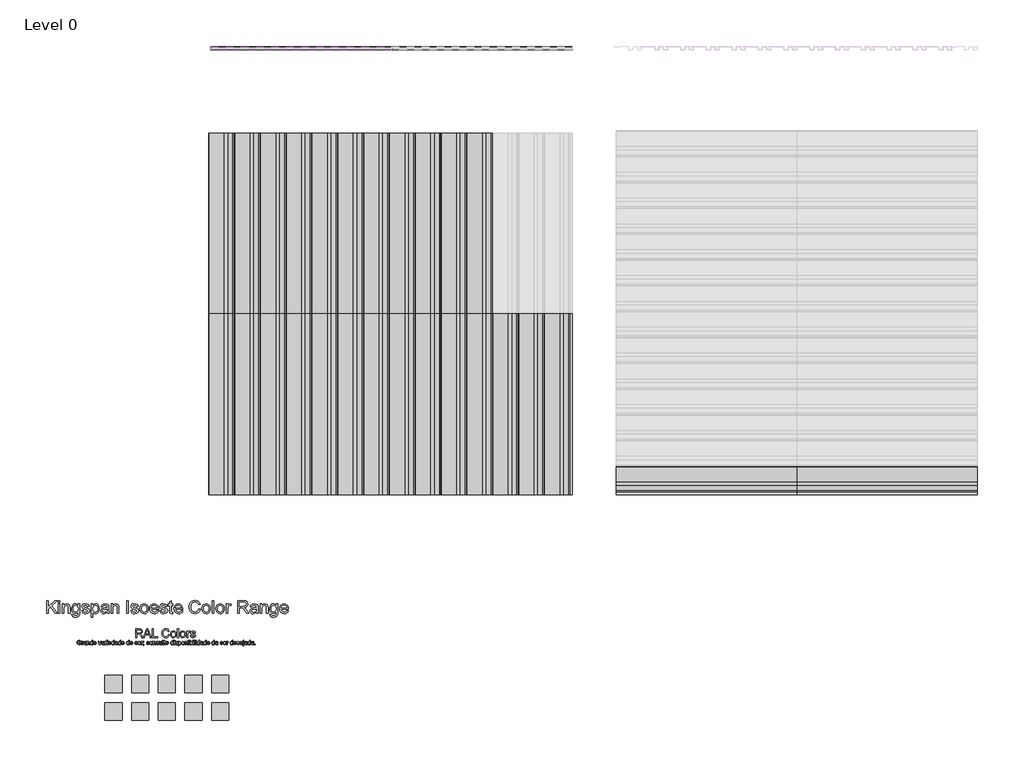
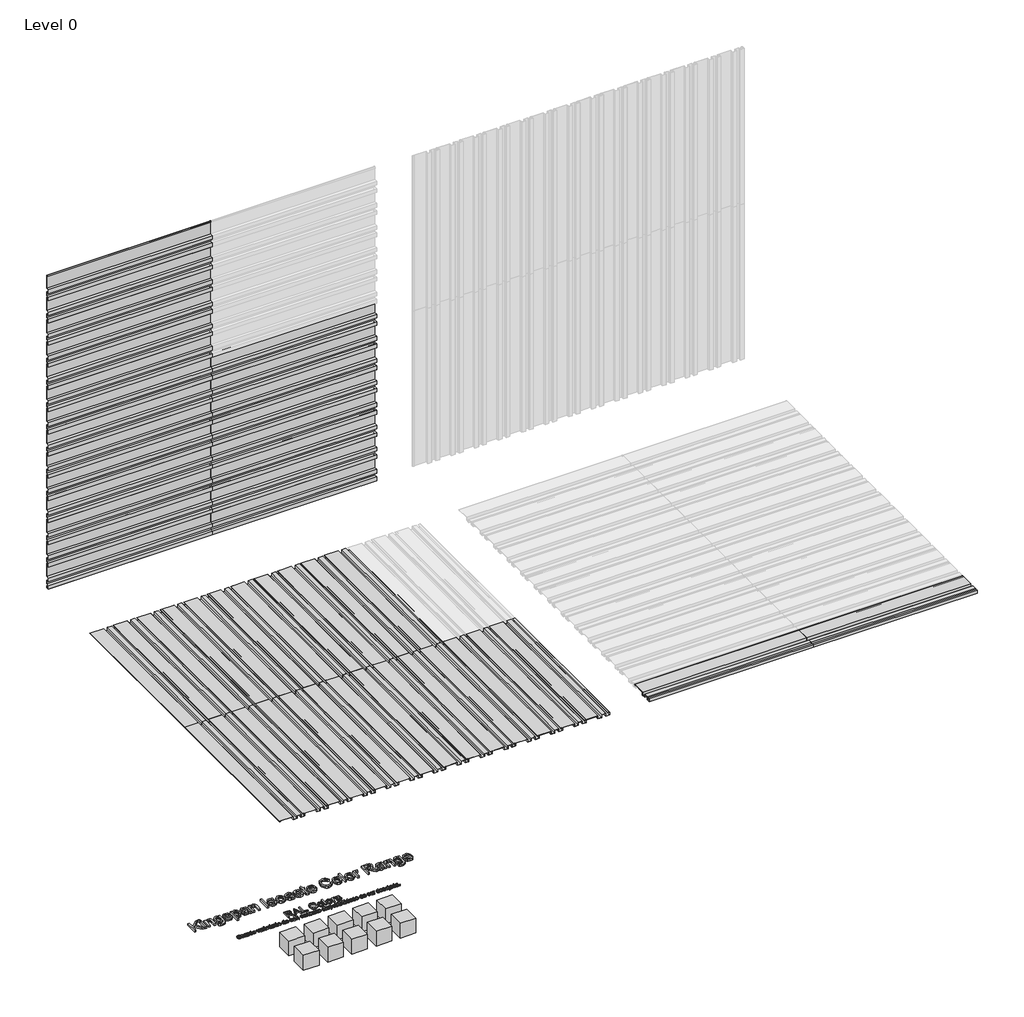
# One storey, part 1 of 2: 60 proxies.
"""IFC4 building model written with IfcOpenShell, lengths in millimetres."""

from ifc_helpers import new_model, si_unit, origin, place, context, project, spatial, transform, mapped, element, save
from components import proxy_32_ks_iso_colour_range_8220f766, proxy_32_ks_iso_colour_range_06d69407, ks_colour_sample_ks_colour_sample_0243efec, mx3_0_standard_panel_ns_184cfff8, mx3_0_standard_panel_ns_9c684af8

model = new_model("IFC4")

# Units and contexts
model_context = context("Model", 3, world=origin())
ifc_project = project(units=[si_unit("LENGTHUNIT", "METRE", prefix="MILLI")], contexts=[model_context])

# Site, building, storey
site = spatial("IfcSite", under=ifc_project)
building = spatial("IfcBuilding", under=site)
storey = spatial("IfcBuildingStorey", under=building, Name="Level 0", Elevation=0.0)

# Proxies
placement = place(None, origin())
proxy_32_ks_iso_colour_range_shape = proxy_32_ks_iso_colour_range_8220f766(model_context)
proxy_32_ks_iso_colour_range_2_shape = proxy_32_ks_iso_colour_range_06d69407(model_context)
element("IfcBuildingElementProxy", 1, Name="32-KS-ISO-Colour Range : Kingspan Isoeste Color Range", ObjectType="32-KS-ISO-Colour Range : Kingspan Isoeste Color Range", at=placement, inside=storey, context=model_context, shape_type="MappedRepresentation", body=[
    mapped(proxy_32_ks_iso_colour_range_shape, transform((-3929.8390717, -2223.0925896, 0.0), x_axis=(1.0, 0.0, 0.0), y_axis=(0.0, 1.0, 0.0), z_axis=(0.0, 0.0, 1.0))),
    mapped(proxy_32_ks_iso_colour_range_2_shape, transform((-3929.8390717, -2223.0925896, 0.0), x_axis=(1.0, 0.0, 0.0), y_axis=(0.0, 1.0, 0.0), z_axis=(0.0, 0.0, 1.0))),
])
ks_colour_sample_ks_colour_sample_shape = ks_colour_sample_ks_colour_sample_0243efec(model_context)
element("IfcBuildingElementProxy", 2, Name="KS_Colour Sample : KS_Colour Sample", ObjectType="KS_Colour Sample : KS_Colour Sample", at=placement, inside=storey, context=model_context, shape_type="MappedRepresentation", body=[
    mapped(ks_colour_sample_ks_colour_sample_shape, transform((-3309.8390717, -2663.0925896, 0.0), x_axis=(1.0, 0.0, 0.0), y_axis=(0.0, 1.0, 0.0), z_axis=(0.0, 0.0, 1.0))),
])
element("IfcBuildingElementProxy", 3, Name="KS_Colour Sample : KS_Colour Sample", ObjectType="KS_Colour Sample : KS_Colour Sample", at=placement, inside=storey, context=model_context, shape_type="MappedRepresentation", body=[
    mapped(ks_colour_sample_ks_colour_sample_shape, transform((-3309.8390717, -2343.0925896, 0.0), x_axis=(1.0, 0.0, 0.0), y_axis=(0.0, 1.0, 0.0), z_axis=(0.0, 0.0, 1.0))),
])
element("IfcBuildingElementProxy", 4, Name="KS_Colour Sample : KS_Colour Sample", ObjectType="KS_Colour Sample : KS_Colour Sample", at=placement, inside=storey, context=model_context, shape_type="MappedRepresentation", body=[
    mapped(ks_colour_sample_ks_colour_sample_shape, transform((-4549.8390717, -2663.0925896, 0.0), x_axis=(1.0, 0.0, 0.0), y_axis=(0.0, 1.0, 0.0), z_axis=(0.0, 0.0, 1.0))),
])
element("IfcBuildingElementProxy", 5, Name="KS_Colour Sample : KS_Colour Sample", ObjectType="KS_Colour Sample : KS_Colour Sample", at=placement, inside=storey, context=model_context, shape_type="MappedRepresentation", body=[
    mapped(ks_colour_sample_ks_colour_sample_shape, transform((-4239.8390717, -2663.0925896, 0.0), x_axis=(1.0, 0.0, 0.0), y_axis=(0.0, 1.0, 0.0), z_axis=(0.0, 0.0, 1.0))),
])
element("IfcBuildingElementProxy", 6, Name="KS_Colour Sample : KS_Colour Sample", ObjectType="KS_Colour Sample : KS_Colour Sample", at=placement, inside=storey, context=model_context, shape_type="MappedRepresentation", body=[
    mapped(ks_colour_sample_ks_colour_sample_shape, transform((-3619.8390717, -2663.0925896, 0.0), x_axis=(1.0, 0.0, 0.0), y_axis=(0.0, 1.0, 0.0), z_axis=(0.0, 0.0, 1.0))),
])
element("IfcBuildingElementProxy", 7, Name="KS_Colour Sample : KS_Colour Sample", ObjectType="KS_Colour Sample : KS_Colour Sample", at=placement, inside=storey, context=model_context, shape_type="MappedRepresentation", body=[
    mapped(ks_colour_sample_ks_colour_sample_shape, transform((-4549.8390717, -2343.0925896, 0.0), x_axis=(1.0, 0.0, 0.0), y_axis=(0.0, 1.0, 0.0), z_axis=(0.0, 0.0, 1.0))),
])
element("IfcBuildingElementProxy", 8, Name="KS_Colour Sample : KS_Colour Sample", ObjectType="KS_Colour Sample : KS_Colour Sample", at=placement, inside=storey, context=model_context, shape_type="MappedRepresentation", body=[
    mapped(ks_colour_sample_ks_colour_sample_shape, transform((-4239.8390717, -2343.0925896, 0.0), x_axis=(1.0, 0.0, 0.0), y_axis=(0.0, 1.0, 0.0), z_axis=(0.0, 0.0, 1.0))),
])
element("IfcBuildingElementProxy", 9, Name="KS_Colour Sample : KS_Colour Sample", ObjectType="KS_Colour Sample : KS_Colour Sample", at=placement, inside=storey, context=model_context, shape_type="MappedRepresentation", body=[
    mapped(ks_colour_sample_ks_colour_sample_shape, transform((-3619.8390717, -2343.0925896, 0.0), x_axis=(1.0, 0.0, 0.0), y_axis=(0.0, 1.0, 0.0), z_axis=(0.0, 0.0, 1.0))),
])
element("IfcBuildingElementProxy", 10, Name="KS_Colour Sample : KS_Colour Sample", ObjectType="KS_Colour Sample : KS_Colour Sample", at=placement, inside=storey, context=model_context, shape_type="MappedRepresentation", body=[
    mapped(ks_colour_sample_ks_colour_sample_shape, transform((-3929.8390717, -2343.0925896, 0.0), x_axis=(1.0, 0.0, 0.0), y_axis=(0.0, 1.0, 0.0), z_axis=(0.0, 0.0, 1.0))),
])
element("IfcBuildingElementProxy", 11, Name="KS_Colour Sample : KS_Colour Sample", ObjectType="KS_Colour Sample : KS_Colour Sample", at=placement, inside=storey, context=model_context, shape_type="MappedRepresentation", body=[
    mapped(ks_colour_sample_ks_colour_sample_shape, transform((-3929.8390717, -2663.0925896, 0.0), x_axis=(1.0, 0.0, 0.0), y_axis=(0.0, 1.0, 0.0), z_axis=(0.0, 0.0, 1.0))),
])
mx3_0_standard_panel_ns_shape = mx3_0_standard_panel_ns_184cfff8(model_context)
element("IfcBuildingElementProxy", 12, Name="MX3.0 : Standard Panel_NS", ObjectType="MX3.0 : Standard Panel_NS", at=placement, inside=storey, context=model_context, shape_type="MappedRepresentation", body=[
    mapped(mx3_0_standard_panel_ns_shape, transform((-3417.7637295, 5063.0274074, 600.0), x_axis=(1.0, 0.0, 0.0), y_axis=(0.0, 0.0, 1.0), z_axis=(0.0, -1.0, 0.0))),
])
element("IfcBuildingElementProxy", 13, Name="MX3.0 : Standard Panel_NS", ObjectType="MX3.0 : Standard Panel_NS", at=placement, inside=storey, context=model_context, shape_type="MappedRepresentation", body=[
    mapped(mx3_0_standard_panel_ns_shape, transform((-3417.7637295, 5063.0274074, 3000.0), x_axis=(1.0, 0.0, 0.0), y_axis=(0.0, 0.0, 1.0), z_axis=(0.0, -1.0, 0.0))),
])
element("IfcBuildingElementProxy", 14, Name="MX3.0 : Standard Panel_NS", ObjectType="MX3.0 : Standard Panel_NS", at=placement, inside=storey, context=model_context, shape_type="MappedRepresentation", body=[
    mapped(mx3_0_standard_panel_ns_shape, transform((-1317.7637295, 5063.0274074, 600.0), x_axis=(1.0, 0.0, 0.0), y_axis=(0.0, 0.0, 1.0), z_axis=(0.0, -1.0, 0.0))),
])
mx3_0_standard_panel_ns_2_shape = mx3_0_standard_panel_ns_9c684af8(model_context)
element("IfcBuildingElementProxy", 15, Name="MX3.0 : Standard Panel_NS", ObjectType="MX3.0 : Standard Panel_NS", at=placement, inside=storey, context=model_context, shape_type="MappedRepresentation", body=[
    mapped(mx3_0_standard_panel_ns_2_shape, transform((182.2362703, -141.6886547, 0.0), x_axis=(0.0, 1.0, 0.0), y_axis=(-1.0, 0.0, 0.0), z_axis=(0.0, 0.0, 1.0))),
])
element("IfcBuildingElementProxy", 16, Name="MX3.0 : Standard Panel_NS", ObjectType="MX3.0 : Standard Panel_NS", at=placement, inside=storey, context=model_context, shape_type="MappedRepresentation", body=[
    mapped(mx3_0_standard_panel_ns_2_shape, transform((-2217.7637297, -141.6886547, 0.0), x_axis=(0.0, 1.0, 0.0), y_axis=(-1.0, 0.0, 0.0), z_axis=(0.0, 0.0, 1.0))),
])
element("IfcBuildingElementProxy", 17, Name="MX3.0 : Standard Panel_NS", ObjectType="MX3.0 : Standard Panel_NS", at=placement, inside=storey, context=model_context, shape_type="MappedRepresentation", body=[
    mapped(mx3_0_standard_panel_ns_2_shape, transform((-2217.7637297, 1958.3113453, 0.0), x_axis=(0.0, 1.0, 0.0), y_axis=(-1.0, 0.0, 0.0), z_axis=(0.0, 0.0, 1.0))),
])
element("IfcBuildingElementProxy", 18, Name="MX3.0 : Standard Panel_NS", ObjectType="MX3.0 : Standard Panel_NS", at=placement, inside=storey, context=model_context, shape_type="MappedRepresentation", body=[
    mapped(mx3_0_standard_panel_ns_shape, transform((-3417.7637295, 5063.0274074, 0.0), x_axis=(1.0, 0.0, 0.0), y_axis=(0.0, 0.0, 1.0), z_axis=(0.0, -1.0, 0.0))),
])
element("IfcBuildingElementProxy", 19, Name="MX3.0 : Standard Panel_NS", ObjectType="MX3.0 : Standard Panel_NS", at=placement, inside=storey, context=model_context, shape_type="MappedRepresentation", body=[
    mapped(mx3_0_standard_panel_ns_shape, transform((-3417.7637295, 5063.0274074, 2400.0), x_axis=(1.0, 0.0, 0.0), y_axis=(0.0, 0.0, 1.0), z_axis=(0.0, -1.0, 0.0))),
])
element("IfcBuildingElementProxy", 20, Name="MX3.0 : Standard Panel_NS", ObjectType="MX3.0 : Standard Panel_NS", at=placement, inside=storey, context=model_context, shape_type="MappedRepresentation", body=[
    mapped(mx3_0_standard_panel_ns_shape, transform((-1317.7637295, 5063.0274074, 0.0), x_axis=(1.0, 0.0, 0.0), y_axis=(0.0, 0.0, 1.0), z_axis=(0.0, -1.0, 0.0))),
])
element("IfcBuildingElementProxy", 21, Name="MX3.0 : Standard Panel_NS", ObjectType="MX3.0 : Standard Panel_NS", at=placement, inside=storey, context=model_context, shape_type="MappedRepresentation", body=[
    mapped(mx3_0_standard_panel_ns_2_shape, transform((-1617.7637297, -141.6886547, 0.0), x_axis=(0.0, 1.0, 0.0), y_axis=(-1.0, 0.0, 0.0), z_axis=(0.0, 0.0, 1.0))),
])
element("IfcBuildingElementProxy", 22, Name="MX3.0 : Standard Panel_NS", ObjectType="MX3.0 : Standard Panel_NS", at=placement, inside=storey, context=model_context, shape_type="MappedRepresentation", body=[
    mapped(mx3_0_standard_panel_ns_2_shape, transform((1289.7088668, -141.6886547, 0.0), x_axis=(1.0, 0.0, 0.0), y_axis=(0.0, 1.0, 0.0), z_axis=(0.0, 0.0, 1.0))),
])
element("IfcBuildingElementProxy", 23, Name="MX3.0 : Standard Panel_NS", ObjectType="MX3.0 : Standard Panel_NS", at=placement, inside=storey, context=model_context, shape_type="MappedRepresentation", body=[
    mapped(mx3_0_standard_panel_ns_2_shape, transform((-1617.7637297, 1958.3113453, 0.0), x_axis=(0.0, 1.0, 0.0), y_axis=(-1.0, 0.0, 0.0), z_axis=(0.0, 0.0, 1.0))),
])
element("IfcBuildingElementProxy", 24, Name="MX3.0 : Standard Panel_NS", ObjectType="MX3.0 : Standard Panel_NS", at=placement, inside=storey, context=model_context, shape_type="MappedRepresentation", body=[
    mapped(mx3_0_standard_panel_ns_2_shape, transform((3389.7088668, -141.6886547, 0.0), x_axis=(1.0, 0.0, 0.0), y_axis=(0.0, 1.0, 0.0), z_axis=(0.0, 0.0, 1.0))),
])
element("IfcBuildingElementProxy", 25, Name="MX3.0 : Standard Panel_NS", ObjectType="MX3.0 : Standard Panel_NS", at=placement, inside=storey, context=model_context, shape_type="MappedRepresentation", body=[
    mapped(mx3_0_standard_panel_ns_2_shape, transform((782.2362705, -141.6886547, 0.0), x_axis=(0.0, 1.0, 0.0), y_axis=(-1.0, 0.0, 0.0), z_axis=(0.0, 0.0, 1.0))),
])
element("IfcBuildingElementProxy", 26, Name="MX3.0 : Standard Panel_NS", ObjectType="MX3.0 : Standard Panel_NS", at=placement, inside=storey, context=model_context, shape_type="MappedRepresentation", body=[
    mapped(mx3_0_standard_panel_ns_2_shape, transform((-3117.7637295, -141.6886547, 0.0), x_axis=(0.0, 1.0, 0.0), y_axis=(-1.0, 0.0, 0.0), z_axis=(0.0, 0.0, 1.0))),
])
element("IfcBuildingElementProxy", 27, Name="MX3.0 : Standard Panel_NS", ObjectType="MX3.0 : Standard Panel_NS", at=placement, inside=storey, context=model_context, shape_type="MappedRepresentation", body=[
    mapped(mx3_0_standard_panel_ns_2_shape, transform((-717.7637297, -141.6886547, 0.0), x_axis=(0.0, 1.0, 0.0), y_axis=(-1.0, 0.0, 0.0), z_axis=(0.0, 0.0, 1.0))),
])
element("IfcBuildingElementProxy", 28, Name="MX3.0 : Standard Panel_NS", ObjectType="MX3.0 : Standard Panel_NS", at=placement, inside=storey, context=model_context, shape_type="MappedRepresentation", body=[
    mapped(mx3_0_standard_panel_ns_2_shape, transform((-3117.7637295, 1958.3113453, 0.0), x_axis=(0.0, 1.0, 0.0), y_axis=(-1.0, 0.0, 0.0), z_axis=(0.0, 0.0, 1.0))),
])
element("IfcBuildingElementProxy", 29, Name="MX3.0 : Standard Panel_NS", ObjectType="MX3.0 : Standard Panel_NS", at=placement, inside=storey, context=model_context, shape_type="MappedRepresentation", body=[
    mapped(mx3_0_standard_panel_ns_2_shape, transform((-717.7637297, 1958.3113453, 0.0), x_axis=(0.0, 1.0, 0.0), y_axis=(-1.0, 0.0, 0.0), z_axis=(0.0, 0.0, 1.0))),
])
element("IfcBuildingElementProxy", 30, Name="MX3.0 : Standard Panel_NS", ObjectType="MX3.0 : Standard Panel_NS", at=placement, inside=storey, context=model_context, shape_type="MappedRepresentation", body=[
    mapped(mx3_0_standard_panel_ns_shape, transform((-3417.7637295, 5063.0274074, 1500.0), x_axis=(1.0, 0.0, 0.0), y_axis=(0.0, 0.0, 1.0), z_axis=(0.0, -1.0, 0.0))),
])
element("IfcBuildingElementProxy", 31, Name="MX3.0 : Standard Panel_NS", ObjectType="MX3.0 : Standard Panel_NS", at=placement, inside=storey, context=model_context, shape_type="MappedRepresentation", body=[
    mapped(mx3_0_standard_panel_ns_shape, transform((-3417.7637295, 5063.0274074, 3900.0), x_axis=(1.0, 0.0, 0.0), y_axis=(0.0, 0.0, 1.0), z_axis=(0.0, -1.0, 0.0))),
])
element("IfcBuildingElementProxy", 32, Name="MX3.0 : Standard Panel_NS", ObjectType="MX3.0 : Standard Panel_NS", at=placement, inside=storey, context=model_context, shape_type="MappedRepresentation", body=[
    mapped(mx3_0_standard_panel_ns_shape, transform((-1317.7637295, 5063.0274074, 1500.0), x_axis=(1.0, 0.0, 0.0), y_axis=(0.0, 0.0, 1.0), z_axis=(0.0, -1.0, 0.0))),
])
element("IfcBuildingElementProxy", 33, Name="MX3.0 : Standard Panel_NS", ObjectType="MX3.0 : Standard Panel_NS", at=placement, inside=storey, context=model_context, shape_type="MappedRepresentation", body=[
    mapped(mx3_0_standard_panel_ns_shape, transform((-3417.7637295, 5063.0274074, 300.0), x_axis=(1.0, 0.0, 0.0), y_axis=(0.0, 0.0, 1.0), z_axis=(0.0, -1.0, 0.0))),
])
element("IfcBuildingElementProxy", 34, Name="MX3.0 : Standard Panel_NS", ObjectType="MX3.0 : Standard Panel_NS", at=placement, inside=storey, context=model_context, shape_type="MappedRepresentation", body=[
    mapped(mx3_0_standard_panel_ns_shape, transform((-3417.7637295, 5063.0274074, 2700.0), x_axis=(1.0, 0.0, 0.0), y_axis=(0.0, 0.0, 1.0), z_axis=(0.0, -1.0, 0.0))),
])
element("IfcBuildingElementProxy", 35, Name="MX3.0 : Standard Panel_NS", ObjectType="MX3.0 : Standard Panel_NS", at=placement, inside=storey, context=model_context, shape_type="MappedRepresentation", body=[
    mapped(mx3_0_standard_panel_ns_shape, transform((-1317.7637295, 5063.0274074, 300.0), x_axis=(1.0, 0.0, 0.0), y_axis=(0.0, 0.0, 1.0), z_axis=(0.0, -1.0, 0.0))),
])
element("IfcBuildingElementProxy", 36, Name="MX3.0 : Standard Panel_NS", ObjectType="MX3.0 : Standard Panel_NS", at=placement, inside=storey, context=model_context, shape_type="MappedRepresentation", body=[
    mapped(mx3_0_standard_panel_ns_shape, transform((-3417.7637295, 5063.0274074, 900.0), x_axis=(1.0, 0.0, 0.0), y_axis=(0.0, 0.0, 1.0), z_axis=(0.0, -1.0, 0.0))),
])
element("IfcBuildingElementProxy", 37, Name="MX3.0 : Standard Panel_NS", ObjectType="MX3.0 : Standard Panel_NS", at=placement, inside=storey, context=model_context, shape_type="MappedRepresentation", body=[
    mapped(mx3_0_standard_panel_ns_shape, transform((-3417.7637295, 5063.0274074, 3300.0), x_axis=(1.0, 0.0, 0.0), y_axis=(0.0, 0.0, 1.0), z_axis=(0.0, -1.0, 0.0))),
])
element("IfcBuildingElementProxy", 38, Name="MX3.0 : Standard Panel_NS", ObjectType="MX3.0 : Standard Panel_NS", at=placement, inside=storey, context=model_context, shape_type="MappedRepresentation", body=[
    mapped(mx3_0_standard_panel_ns_shape, transform((-1317.7637295, 5063.0274074, 900.0), x_axis=(1.0, 0.0, 0.0), y_axis=(0.0, 0.0, 1.0), z_axis=(0.0, -1.0, 0.0))),
])
element("IfcBuildingElementProxy", 39, Name="MX3.0 : Standard Panel_NS", ObjectType="MX3.0 : Standard Panel_NS", at=placement, inside=storey, context=model_context, shape_type="MappedRepresentation", body=[
    mapped(mx3_0_standard_panel_ns_shape, transform((-3417.7637295, 5063.0274074, 1200.0), x_axis=(1.0, 0.0, 0.0), y_axis=(0.0, 0.0, 1.0), z_axis=(0.0, -1.0, 0.0))),
])
element("IfcBuildingElementProxy", 40, Name="MX3.0 : Standard Panel_NS", ObjectType="MX3.0 : Standard Panel_NS", at=placement, inside=storey, context=model_context, shape_type="MappedRepresentation", body=[
    mapped(mx3_0_standard_panel_ns_shape, transform((-3417.7637295, 5063.0274074, 3600.0), x_axis=(1.0, 0.0, 0.0), y_axis=(0.0, 0.0, 1.0), z_axis=(0.0, -1.0, 0.0))),
])
element("IfcBuildingElementProxy", 41, Name="MX3.0 : Standard Panel_NS", ObjectType="MX3.0 : Standard Panel_NS", at=placement, inside=storey, context=model_context, shape_type="MappedRepresentation", body=[
    mapped(mx3_0_standard_panel_ns_shape, transform((-1317.7637295, 5063.0274074, 1200.0), x_axis=(1.0, 0.0, 0.0), y_axis=(0.0, 0.0, 1.0), z_axis=(0.0, -1.0, 0.0))),
])
element("IfcBuildingElementProxy", 42, Name="MX3.0 : Standard Panel_NS", ObjectType="MX3.0 : Standard Panel_NS", at=placement, inside=storey, context=model_context, shape_type="MappedRepresentation", body=[
    mapped(mx3_0_standard_panel_ns_shape, transform((-3417.7637295, 5063.0274074, 1800.0), x_axis=(1.0, 0.0, 0.0), y_axis=(0.0, 0.0, 1.0), z_axis=(0.0, -1.0, 0.0))),
])
element("IfcBuildingElementProxy", 43, Name="MX3.0 : Standard Panel_NS", ObjectType="MX3.0 : Standard Panel_NS", at=placement, inside=storey, context=model_context, shape_type="MappedRepresentation", body=[
    mapped(mx3_0_standard_panel_ns_shape, transform((-1317.7637295, 5063.0274074, 1800.0), x_axis=(1.0, 0.0, 0.0), y_axis=(0.0, 0.0, 1.0), z_axis=(0.0, -1.0, 0.0))),
])
element("IfcBuildingElementProxy", 44, Name="MX3.0 : Standard Panel_NS", ObjectType="MX3.0 : Standard Panel_NS", at=placement, inside=storey, context=model_context, shape_type="MappedRepresentation", body=[
    mapped(mx3_0_standard_panel_ns_shape, transform((-3417.7637295, 5063.0274074, 2100.0), x_axis=(1.0, 0.0, 0.0), y_axis=(0.0, 0.0, 1.0), z_axis=(0.0, -1.0, 0.0))),
])
element("IfcBuildingElementProxy", 45, Name="MX3.0 : Standard Panel_NS", ObjectType="MX3.0 : Standard Panel_NS", at=placement, inside=storey, context=model_context, shape_type="MappedRepresentation", body=[
    mapped(mx3_0_standard_panel_ns_shape, transform((-1317.7637295, 5063.0274074, 2100.0), x_axis=(1.0, 0.0, 0.0), y_axis=(0.0, 0.0, 1.0), z_axis=(0.0, -1.0, 0.0))),
])
element("IfcBuildingElementProxy", 46, Name="MX3.0 : Standard Panel_NS", ObjectType="MX3.0 : Standard Panel_NS", at=placement, inside=storey, context=model_context, shape_type="MappedRepresentation", body=[
    mapped(mx3_0_standard_panel_ns_2_shape, transform((482.2362703, -141.6886547, 0.0), x_axis=(0.0, 1.0, 0.0), y_axis=(-1.0, 0.0, 0.0), z_axis=(0.0, 0.0, 1.0))),
])
element("IfcBuildingElementProxy", 47, Name="MX3.0 : Standard Panel_NS", ObjectType="MX3.0 : Standard Panel_NS", at=placement, inside=storey, context=model_context, shape_type="MappedRepresentation", body=[
    mapped(mx3_0_standard_panel_ns_2_shape, transform((-1917.7637297, -141.6886547, 0.0), x_axis=(0.0, 1.0, 0.0), y_axis=(-1.0, 0.0, 0.0), z_axis=(0.0, 0.0, 1.0))),
])
element("IfcBuildingElementProxy", 48, Name="MX3.0 : Standard Panel_NS", ObjectType="MX3.0 : Standard Panel_NS", at=placement, inside=storey, context=model_context, shape_type="MappedRepresentation", body=[
    mapped(mx3_0_standard_panel_ns_2_shape, transform((-1917.7637297, 1958.3113453, 0.0), x_axis=(0.0, 1.0, 0.0), y_axis=(-1.0, 0.0, 0.0), z_axis=(0.0, 0.0, 1.0))),
])
element("IfcBuildingElementProxy", 49, Name="MX3.0 : Standard Panel_NS", ObjectType="MX3.0 : Standard Panel_NS", at=placement, inside=storey, context=model_context, shape_type="MappedRepresentation", body=[
    mapped(mx3_0_standard_panel_ns_2_shape, transform((-117.7637297, -141.6886547, 0.0), x_axis=(0.0, 1.0, 0.0), y_axis=(-1.0, 0.0, 0.0), z_axis=(0.0, 0.0, 1.0))),
])
element("IfcBuildingElementProxy", 50, Name="MX3.0 : Standard Panel_NS", ObjectType="MX3.0 : Standard Panel_NS", at=placement, inside=storey, context=model_context, shape_type="MappedRepresentation", body=[
    mapped(mx3_0_standard_panel_ns_2_shape, transform((-2517.7637297, -141.6886547, 0.0), x_axis=(0.0, 1.0, 0.0), y_axis=(-1.0, 0.0, 0.0), z_axis=(0.0, 0.0, 1.0))),
])
element("IfcBuildingElementProxy", 51, Name="MX3.0 : Standard Panel_NS", ObjectType="MX3.0 : Standard Panel_NS", at=placement, inside=storey, context=model_context, shape_type="MappedRepresentation", body=[
    mapped(mx3_0_standard_panel_ns_2_shape, transform((-2517.7637297, 1958.3113453, 0.0), x_axis=(0.0, 1.0, 0.0), y_axis=(-1.0, 0.0, 0.0), z_axis=(0.0, 0.0, 1.0))),
])
element("IfcBuildingElementProxy", 52, Name="MX3.0 : Standard Panel_NS", ObjectType="MX3.0 : Standard Panel_NS", at=placement, inside=storey, context=model_context, shape_type="MappedRepresentation", body=[
    mapped(mx3_0_standard_panel_ns_2_shape, transform((-117.7637297, 1958.3113453, 0.0), x_axis=(0.0, 1.0, 0.0), y_axis=(-1.0, 0.0, 0.0), z_axis=(0.0, 0.0, 1.0))),
])
element("IfcBuildingElementProxy", 53, Name="MX3.0 : Standard Panel_NS", ObjectType="MX3.0 : Standard Panel_NS", at=placement, inside=storey, context=model_context, shape_type="MappedRepresentation", body=[
    mapped(mx3_0_standard_panel_ns_2_shape, transform((-417.7637297, -141.6886547, 0.0), x_axis=(0.0, 1.0, 0.0), y_axis=(-1.0, 0.0, 0.0), z_axis=(0.0, 0.0, 1.0))),
])
element("IfcBuildingElementProxy", 54, Name="MX3.0 : Standard Panel_NS", ObjectType="MX3.0 : Standard Panel_NS", at=placement, inside=storey, context=model_context, shape_type="MappedRepresentation", body=[
    mapped(mx3_0_standard_panel_ns_2_shape, transform((-2817.7637297, -141.6886547, 0.0), x_axis=(0.0, 1.0, 0.0), y_axis=(-1.0, 0.0, 0.0), z_axis=(0.0, 0.0, 1.0))),
])
element("IfcBuildingElementProxy", 55, Name="MX3.0 : Standard Panel_NS", ObjectType="MX3.0 : Standard Panel_NS", at=placement, inside=storey, context=model_context, shape_type="MappedRepresentation", body=[
    mapped(mx3_0_standard_panel_ns_2_shape, transform((-2817.7637297, 1958.3113453, 0.0), x_axis=(0.0, 1.0, 0.0), y_axis=(-1.0, 0.0, 0.0), z_axis=(0.0, 0.0, 1.0))),
])
element("IfcBuildingElementProxy", 56, Name="MX3.0 : Standard Panel_NS", ObjectType="MX3.0 : Standard Panel_NS", at=placement, inside=storey, context=model_context, shape_type="MappedRepresentation", body=[
    mapped(mx3_0_standard_panel_ns_2_shape, transform((-417.7637297, 1958.3113453, 0.0), x_axis=(0.0, 1.0, 0.0), y_axis=(-1.0, 0.0, 0.0), z_axis=(0.0, 0.0, 1.0))),
])
element("IfcBuildingElementProxy", 57, Name="MX3.0 : Standard Panel_NS", ObjectType="MX3.0 : Standard Panel_NS", at=placement, inside=storey, context=model_context, shape_type="MappedRepresentation", body=[
    mapped(mx3_0_standard_panel_ns_2_shape, transform((-1017.7637297, -141.6886547, 0.0), x_axis=(0.0, 1.0, 0.0), y_axis=(-1.0, 0.0, 0.0), z_axis=(0.0, 0.0, 1.0))),
])
element("IfcBuildingElementProxy", 58, Name="MX3.0 : Standard Panel_NS", ObjectType="MX3.0 : Standard Panel_NS", at=placement, inside=storey, context=model_context, shape_type="MappedRepresentation", body=[
    mapped(mx3_0_standard_panel_ns_2_shape, transform((-1017.7637297, 1958.3113453, 0.0), x_axis=(0.0, 1.0, 0.0), y_axis=(-1.0, 0.0, 0.0), z_axis=(0.0, 0.0, 1.0))),
])
element("IfcBuildingElementProxy", 59, Name="MX3.0 : Standard Panel_NS", ObjectType="MX3.0 : Standard Panel_NS", at=placement, inside=storey, context=model_context, shape_type="MappedRepresentation", body=[
    mapped(mx3_0_standard_panel_ns_2_shape, transform((-1317.7637297, -141.6886547, 0.0), x_axis=(0.0, 1.0, 0.0), y_axis=(-1.0, 0.0, 0.0), z_axis=(0.0, 0.0, 1.0))),
])
element("IfcBuildingElementProxy", 60, Name="MX3.0 : Standard Panel_NS", ObjectType="MX3.0 : Standard Panel_NS", at=placement, inside=storey, context=model_context, shape_type="MappedRepresentation", body=[
    mapped(mx3_0_standard_panel_ns_2_shape, transform((-1317.7637297, 1958.3113453, 0.0), x_axis=(0.0, 1.0, 0.0), y_axis=(-1.0, 0.0, 0.0), z_axis=(0.0, 0.0, 1.0))),
])

save(model, "model.ifc")
